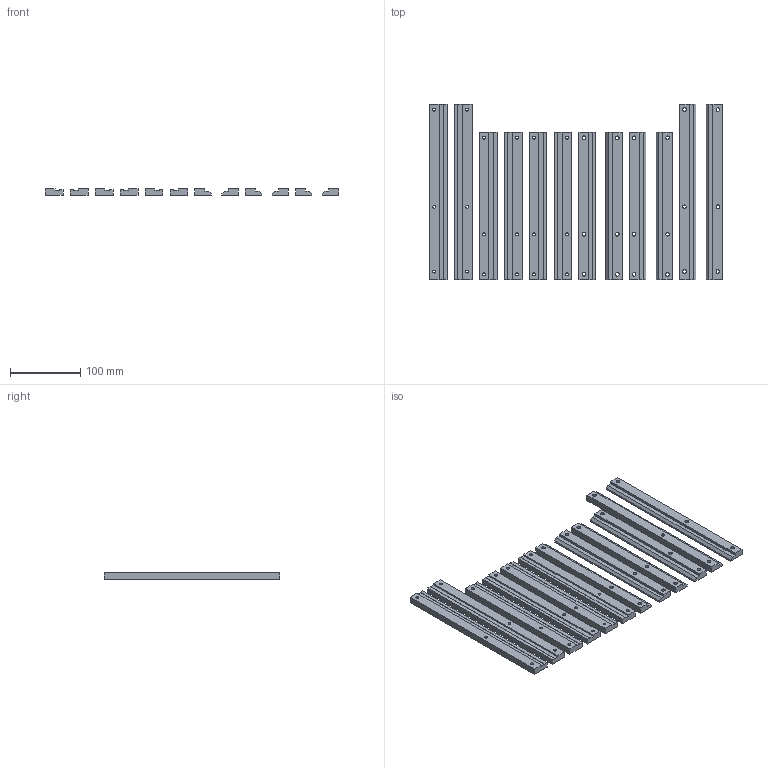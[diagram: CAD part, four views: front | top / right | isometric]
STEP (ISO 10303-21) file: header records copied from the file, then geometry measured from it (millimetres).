
FILE_DESCRIPTION(/* description */ (''),/* implementation_level */ '2;1');
FILE_NAME(/* name */ 'DELRIN~1',/* time_stamp */ '2017-11-06T10:34:03-05:00',/* author */ (''),/* organization */ (''),/* preprocessor_version */ 'ST-DEVELOPER v15',/* originating_system */ '',/* authorisation */ '');
FILE_SCHEMA (('AUTOMOTIVE_DESIGN'));
Length unit declared in the file: millimetre
Products named in the file (1): Document
Bounding box: 417.01 x 250 x 9.5 mm (x, y, z)
Volume: 531783.9 mm3; surface area: 188507.5 mm2
Topology: 12 solids, 12 shells, 186 faces, 486 edges, 324 vertices
Faces by surface type: plane 114, bspline 72
Entity records: 5815 total; most frequent: CARTESIAN_POINT 2564, ORIENTED_EDGE 972, EDGE_CURVE 486, VERTEX_POINT 324, B_SPLINE_CURVE_WITH_KNOTS 270, EDGE_LOOP 258, ADVANCED_FACE 186, FACE_OUTER_BOUND 186
